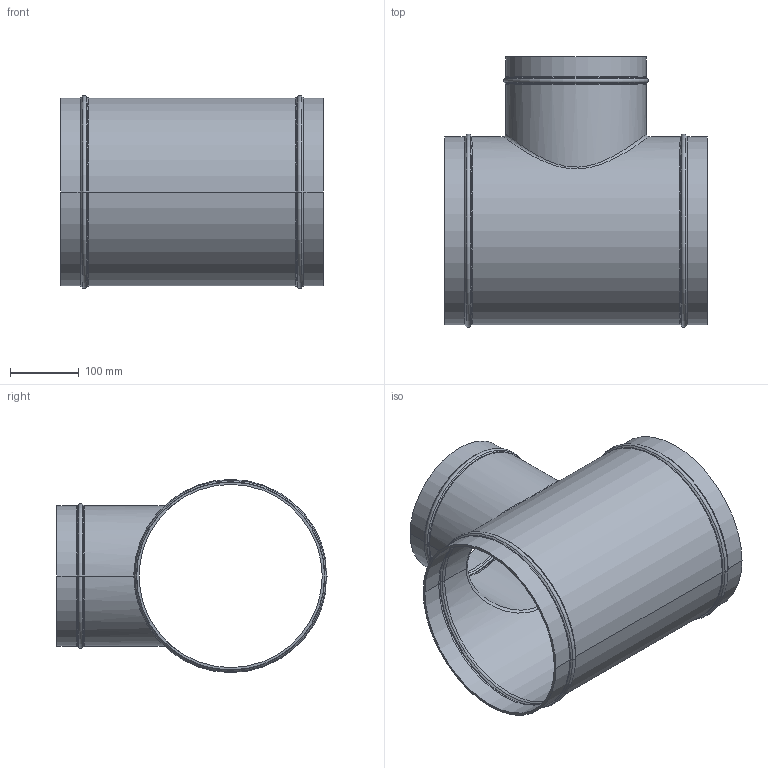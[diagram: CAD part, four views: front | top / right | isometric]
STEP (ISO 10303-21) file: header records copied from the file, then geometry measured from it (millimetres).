
FILE_DESCRIPTION(/* description */ (''),/* implementation_level */ '2;1');
FILE_NAME(/* name */ 'MA07_stp.stp',/* time_stamp */ '2025-06-20T11:48:39+08:00',/* author */ (''),/* organization */ (''),/* preprocessor_version */ 'ST-DEVELOPER v14',/* originating_system */ 'SIEMENS PLM Software NX 8.0',/* authorisation */ '');
FILE_SCHEMA (('AP203_CONFIGURATION_CONTROLLED_3D_DESIGN_OF_MECHANICAL_PARTS_AND_ASSEMBLIES_MIM_LF { 1 0 10303 403 2 1 2}'));
Length unit declared in the file: millimetre
Products named in the file (1): Admi0BECFFFE4xw8
Bounding box: 382 x 392.78 x 280.57 mm (x, y, z)
Volume: 1211793.2 mm3; surface area: 774064.7 mm2
Topology: 1 solids, 1 shells, 89 faces, 184 edges, 96 vertices
Faces by surface type: torus 36, cone 24, cylinder 20, bspline 6, plane 3
Entity records: 3762 total; most frequent: CARTESIAN_POINT 1758, DIRECTION 466, ORIENTED_EDGE 368, AXIS2_PLACEMENT_3D 210, EDGE_CURVE 184, CIRCLE 126, VERTEX_POINT 96, EDGE_LOOP 92
